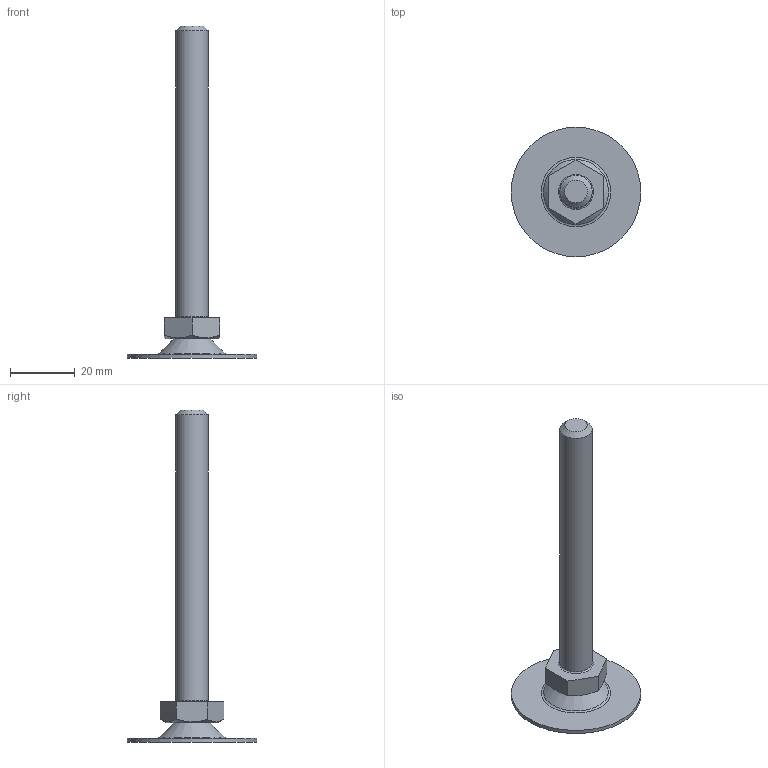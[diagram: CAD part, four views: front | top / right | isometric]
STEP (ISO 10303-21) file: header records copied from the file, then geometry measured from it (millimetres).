
FILE_DESCRIPTION(('STEP AP203'), '1');
FILE_NAME('A00050.1041016', '', ('UNSPECIFIED'), ('UNSPECIFIED'), 'C3D Converter', 'C3D Toolkit', '');
FILE_SCHEMA(('CONFIG_CONTROL_DESIGN'));
Length unit declared in the file: millimetre
Products named in the file (4): A00050.1041090; A00050.1040
Assembly tree (3 placements, depth 2):
  A00050.1041090
    A00050.1040
    (unnamed)
    (unnamed)
Bounding box: 40 x 40 x 102.38 mm (x, y, z)
Volume: 10240.1 mm3; surface area: 6927.4 mm2
Topology: 3 solids, 3 shells, 58 faces, 130 edges, 82 vertices
Faces by surface type: plane 28, torus 8, bspline 8, cone 7, cylinder 6, sphere 1
Full cylindrical faces by diameter (mm): 3.3 x1, 4 x1, 4.5 x1, 8 x1, 10 x1, 40 x1
Entity records: 2171 total; most frequent: CARTESIAN_POINT 784, DIRECTION 242, ORIENTED_EDGE 214, EDGE_CURVE 107, AXIS2_PLACEMENT_3D 95, EDGE_LOOP 86, VERTEX_POINT 81, ADVANCED_FACE 58
